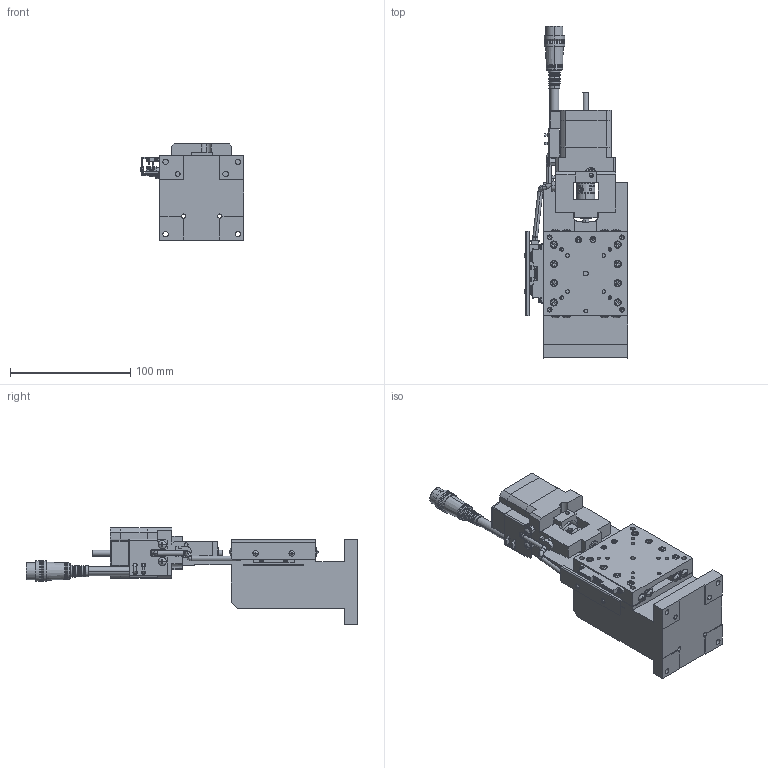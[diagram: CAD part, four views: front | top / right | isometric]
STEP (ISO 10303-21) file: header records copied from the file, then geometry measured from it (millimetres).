
FILE_DESCRIPTION (( 'STEP AP203' ), '1' );
FILE_NAME ('ZA07F-X103.STEP', '2019-02-21T00:43:02', ( '' ), ( '' ), 'SwSTEP 2.0', 'SolidWorks 2018', '' );
FILE_SCHEMA (( 'CONFIG_CONTROL_DESIGN' ));
Length unit declared in the file: millimetre
Products named in the file (6): base-Part-2; table; base-Part-3; base; base-Part-1; ZA07F-X103
Assembly tree (5 placements, depth 3):
  ZA07F-X103
    base
      base-Part-1
      base-Part-2
      base-Part-3
    table
Bounding box: 86.18 x 275.5 x 80 mm (x, y, z)
Volume: 429526.5 mm3; surface area: 114891.7 mm2
Topology: 4 solids, 4 shells, 2186 faces, 5454 edges, 3342 vertices
Faces by surface type: plane 1253, cylinder 544, cone 301, torus 54, sphere 34
Entity records: 65683 total; most frequent: CARTESIAN_POINT 12024, DIRECTION 11573, ORIENTED_EDGE 10708, EDGE_CURVE 5354, AXIS2_PLACEMENT_3D 4165, VERTEX_POINT 3336, LINE 3243, VECTOR 3243
